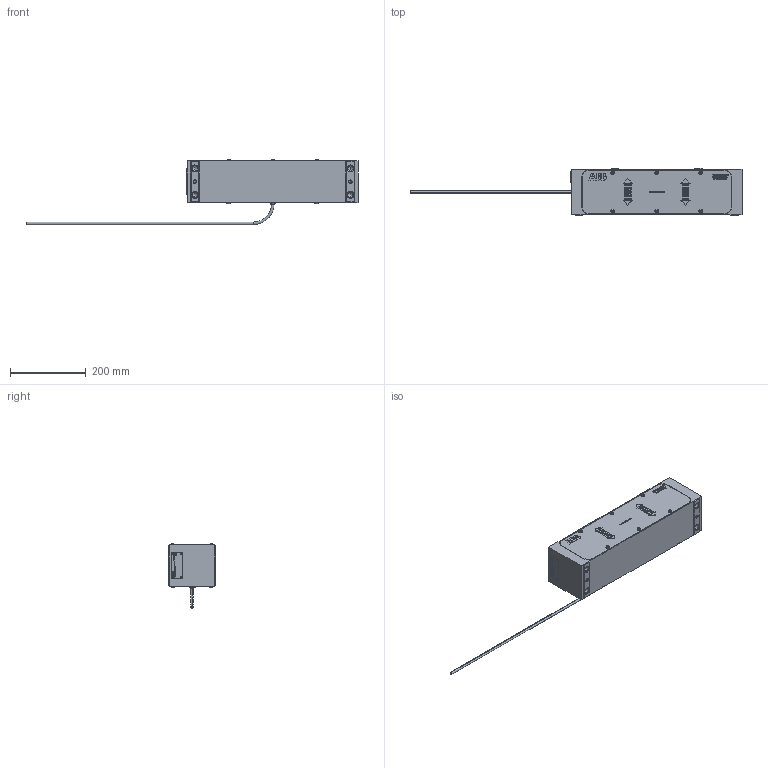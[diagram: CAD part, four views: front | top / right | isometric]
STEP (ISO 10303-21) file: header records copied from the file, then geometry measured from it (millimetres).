
FILE_DESCRIPTION (( 'STEP AP203' ), '1' );
FILE_NAME ('PFCL201CD.STEP', '2014-03-17T14:28:12', ( 'ABB' ), ( 'ABB' ), 'SwSTEP 2.0', 'SolidWorks 2013', '' );
FILE_SCHEMA (( 'CONFIG_CONTROL_DESIGN' ));
Products named in the file (3): PFCL201CD; Group3^PFCL201CD; Group4^PFCL201CD
Assembly tree (2 placements, depth 2):
  PFCL201CD
    Group3^PFCL201CD
    Group4^PFCL201CD
Bounding box: 875 x 124.6 x 171.85 mm (x, y, z)
Volume: 5853867 mm3; surface area: 477118.8 mm2
Topology: 2 solids, 2 shells, 1584 faces, 5172 edges, 3929 vertices
Faces by surface type: plane 630, cylinder 452, cone 238, bspline 194, torus 38, sphere 32
Entity records: 76776 total; most frequent: CARTESIAN_POINT 31422, ORIENTED_EDGE 10248, DIRECTION 8156, EDGE_CURVE 5124, VERTEX_POINT 3921, AXIS2_PLACEMENT_3D 2794, VECTOR 2568, LINE 2568
